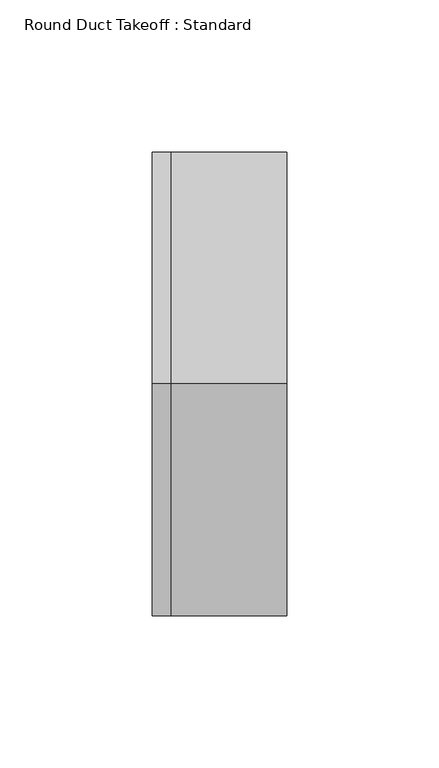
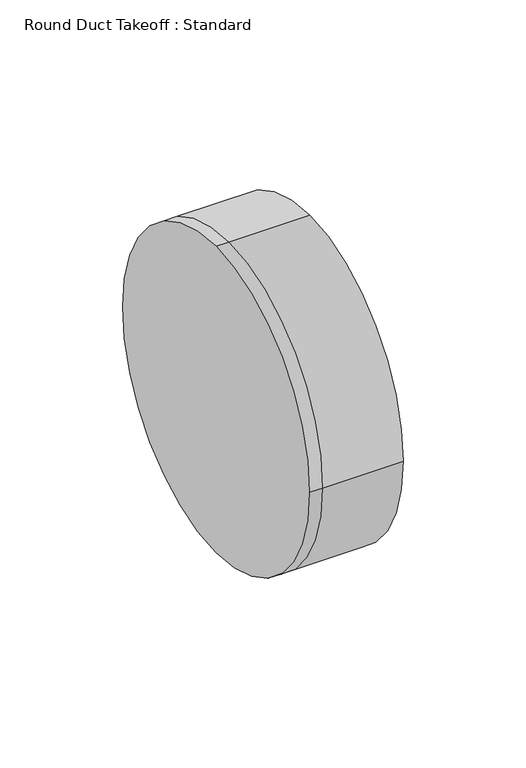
"""IFC4 building model written with IfcOpenShell, lengths in millimetres: duct fitting geometry, Round Duct Takeoff : Standard."""

from ifc_helpers import new_model, si_unit, frame, origin, place, context, project, spatial, circle_curve, source, transform, mapped, element, save
from ifc_brep_helpers import plane_surface, cylinder_surface, advanced_brep


def round_duct_takeoff_standard_3fff5fc7(model_context):
    return source(origin(), model_context, "Body", "AdvancedBrep", [
        advanced_brep(
        [(-6.096, 0.0, 76.2), (-6.096, 76.2, 0.0), (-6.096, 0.0, -76.2), (-6.096, -76.2, 0.0), (0.0, -76.2, 0.0), (0.0, 0.0, 76.2), (0.0, 0.0, -76.2), (0.0, 76.2, 0.0), (38.1, 0.0, 76.2), (38.1, -76.2, 0.0), (38.1, 0.0, -76.2), (38.1, 76.2, 0.0)],
        [
            (0, 1, circle_curve(frame((-6.096, 0.0, 0.0), z_axis=(-1.0, 0.0, 0.0), x_axis=(0.0, -1.0, 0.0)), 76.2)),
            (1, 2, circle_curve(frame((-6.096, 0.0, 0.0), z_axis=(-1.0, 0.0, 0.0), x_axis=(0.0, -1.0, 0.0)), 76.2)),
            (2, 3, circle_curve(frame((-6.096, 0.0, 0.0), z_axis=(-1.0, 0.0, 0.0), x_axis=(0.0, -1.0, 0.0)), 76.2)),
            (3, 0, circle_curve(frame((-6.096, 0.0, 0.0), z_axis=(-1.0, 0.0, 0.0), x_axis=(0.0, -1.0, 0.0)), 76.2)),
            (3, 4),
            (4, 5, circle_curve(frame((0.0, 0.0, 0.0), z_axis=(-1.0, 0.0, 0.0), x_axis=(0.0, -1.0, 0.0)), 76.2)),
            (5, 0),
            (2, 6),
            (6, 4, circle_curve(frame((0.0, 0.0, 0.0), z_axis=(-1.0, 0.0, 0.0), x_axis=(0.0, -1.0, 0.0)), 76.2)),
            (1, 7),
            (7, 6, circle_curve(frame((0.0, 0.0, 0.0), z_axis=(-1.0, 0.0, 0.0), x_axis=(0.0, -1.0, 0.0)), 76.2)),
            (5, 7, circle_curve(frame((0.0, 0.0, 0.0), z_axis=(-1.0, 0.0, 0.0), x_axis=(0.0, -1.0, 0.0)), 76.2)),
            (8, 9, circle_curve(frame((38.1, 0.0, 0.0), z_axis=(1.0, 0.0, 0.0), x_axis=(0.0, -1.0, 0.0)), 76.2)),
            (9, 10, circle_curve(frame((38.1, 0.0, 0.0), z_axis=(1.0, 0.0, 0.0), x_axis=(0.0, -1.0, 0.0)), 76.2)),
            (10, 11, circle_curve(frame((38.1, 0.0, 0.0), z_axis=(1.0, 0.0, 0.0), x_axis=(0.0, -1.0, 0.0)), 76.2)),
            (11, 8, circle_curve(frame((38.1, 0.0, 0.0), z_axis=(1.0, 0.0, 0.0), x_axis=(0.0, -1.0, 0.0)), 76.2)),
            (8, 5),
            (4, 9),
            (6, 10),
            (7, 11),
        ],
        [
            plane_surface(frame((-6.096, 0.0, 0.0), z_axis=(-1.0, 0.0, 0.0), x_axis=(0.0, 0.0, 1.0))),
            cylinder_surface(frame((-6.096, 0.0, 0.0), z_axis=(-1.0, 0.0, 0.0), x_axis=(0.0, -1.0, 0.0)), 76.2),
            plane_surface(frame((38.1, 0.0, 0.0), z_axis=(1.0, 0.0, 0.0), x_axis=(0.0, 0.0, 1.0))),
            cylinder_surface(frame((0.0, 0.0, 0.0), z_axis=(-1.0, 0.0, 0.0), x_axis=(0.0, -1.0, 0.0)), 76.2),
        ],
        [
            (0, [[1, 2, 3, 4]]),
            (1, [[5, 6, 7, -4]]),
            (1, [[8, 9, -5, -3]]),
            (1, [[10, 11, -8, -2]]),
            (1, [[-7, 12, -10, -1]]),
            (2, [[13, 14, 15, 16]]),
            (3, [[17, -6, 18, -13]]),
            (3, [[-18, -9, 19, -14]]),
            (3, [[-19, -11, 20, -15]]),
            (3, [[-20, -12, -17, -16]]),
        ],
    ),
        advanced_brep(
        [(38.1, 0.0, 76.2), (38.1, -76.2, 0.0), (38.1, 0.0, -76.2), (38.1, 76.2, 0.0), (0.0, 0.0, 76.2), (0.0, -76.2, 0.0), (0.0, 0.0, -76.2), (0.0, 76.2, 0.0), (-6.096, 0.0, 76.2), (-6.096, 76.2, 0.0), (-6.096, 0.0, -76.2), (-6.096, -76.2, 0.0)],
        [
            (0, 1, circle_curve(frame((38.1, 0.0, 0.0), z_axis=(1.0, 0.0, 0.0), x_axis=(0.0, -1.0, 0.0)), 76.2)),
            (1, 2, circle_curve(frame((38.1, 0.0, 0.0), z_axis=(1.0, 0.0, 0.0), x_axis=(0.0, -1.0, 0.0)), 76.2)),
            (2, 3, circle_curve(frame((38.1, 0.0, 0.0), z_axis=(1.0, 0.0, 0.0), x_axis=(0.0, -1.0, 0.0)), 76.2)),
            (3, 0, circle_curve(frame((38.1, 0.0, 0.0), z_axis=(1.0, 0.0, 0.0), x_axis=(0.0, -1.0, 0.0)), 76.2)),
            (0, 4),
            (4, 5, circle_curve(frame((0.0, 0.0, 0.0), z_axis=(1.0, 0.0, 0.0), x_axis=(0.0, -1.0, 0.0)), 76.2)),
            (5, 1),
            (5, 6, circle_curve(frame((0.0, 0.0, 0.0), z_axis=(1.0, 0.0, 0.0), x_axis=(0.0, -1.0, 0.0)), 76.2)),
            (6, 2),
            (6, 7, circle_curve(frame((0.0, 0.0, 0.0), z_axis=(1.0, 0.0, 0.0), x_axis=(0.0, -1.0, 0.0)), 76.2)),
            (7, 3),
            (7, 4, circle_curve(frame((0.0, 0.0, 0.0), z_axis=(1.0, 0.0, 0.0), x_axis=(0.0, -1.0, 0.0)), 76.2)),
            (8, 9, circle_curve(frame((-6.096, 0.0, 0.0), z_axis=(-1.0, 0.0, 0.0), x_axis=(0.0, -1.0, 0.0)), 76.2)),
            (9, 10, circle_curve(frame((-6.096, 0.0, 0.0), z_axis=(-1.0, 0.0, 0.0), x_axis=(0.0, -1.0, 0.0)), 76.2)),
            (10, 11, circle_curve(frame((-6.096, 0.0, 0.0), z_axis=(-1.0, 0.0, 0.0), x_axis=(0.0, -1.0, 0.0)), 76.2)),
            (11, 8, circle_curve(frame((-6.096, 0.0, 0.0), z_axis=(-1.0, 0.0, 0.0), x_axis=(0.0, -1.0, 0.0)), 76.2)),
            (11, 5),
            (4, 8),
            (10, 6),
            (9, 7),
        ],
        [
            plane_surface(frame((38.1, 0.0, 0.0), z_axis=(1.0, 0.0, 0.0), x_axis=(0.0, 0.0, 1.0))),
            cylinder_surface(frame((0.0, 0.0, 0.0), z_axis=(-1.0, 0.0, 0.0), x_axis=(0.0, -1.0, 0.0)), 76.2),
            plane_surface(frame((-6.096, 0.0, 0.0), z_axis=(-1.0, 0.0, 0.0), x_axis=(0.0, 0.0, 1.0))),
            cylinder_surface(frame((-6.096, 0.0, 0.0), z_axis=(-1.0, 0.0, 0.0), x_axis=(0.0, -1.0, 0.0)), 76.2),
        ],
        [
            (0, [[1, 2, 3, 4]]),
            (1, [[5, 6, 7, -1]]),
            (1, [[-7, 8, 9, -2]]),
            (1, [[-9, 10, 11, -3]]),
            (1, [[-11, 12, -5, -4]]),
            (2, [[13, 14, 15, 16]]),
            (3, [[17, -6, 18, -16]]),
            (3, [[19, -8, -17, -15]]),
            (3, [[20, -10, -19, -14]]),
            (3, [[-18, -12, -20, -13]]),
        ],
    ),
        advanced_brep(
        [(-6.096, 0.0, 76.2), (-6.096, 76.2, 0.0), (-6.096, 0.0, -76.2), (-6.096, -76.2, 0.0), (0.0, -76.2, 0.0), (0.0, 0.0, 76.2), (0.0, 0.0, -76.2), (0.0, 76.2, 0.0), (38.1, 0.0, 76.2), (38.1, -76.2, 0.0), (38.1, 0.0, -76.2), (38.1, 76.2, 0.0)],
        [
            (0, 1, circle_curve(frame((-6.096, 0.0, 0.0), z_axis=(-1.0, 0.0, 0.0), x_axis=(0.0, -1.0, 0.0)), 76.2)),
            (1, 2, circle_curve(frame((-6.096, 0.0, 0.0), z_axis=(-1.0, 0.0, 0.0), x_axis=(0.0, -1.0, 0.0)), 76.2)),
            (2, 3, circle_curve(frame((-6.096, 0.0, 0.0), z_axis=(-1.0, 0.0, 0.0), x_axis=(0.0, -1.0, 0.0)), 76.2)),
            (3, 0, circle_curve(frame((-6.096, 0.0, 0.0), z_axis=(-1.0, 0.0, 0.0), x_axis=(0.0, -1.0, 0.0)), 76.2)),
            (3, 4),
            (4, 5, circle_curve(frame((0.0, 0.0, 0.0), z_axis=(-1.0, 0.0, 0.0), x_axis=(0.0, -1.0, 0.0)), 76.2)),
            (5, 0),
            (2, 6),
            (6, 4, circle_curve(frame((0.0, 0.0, 0.0), z_axis=(-1.0, 0.0, 0.0), x_axis=(0.0, -1.0, 0.0)), 76.2)),
            (1, 7),
            (7, 6, circle_curve(frame((0.0, 0.0, 0.0), z_axis=(-1.0, 0.0, 0.0), x_axis=(0.0, -1.0, 0.0)), 76.2)),
            (5, 7, circle_curve(frame((0.0, 0.0, 0.0), z_axis=(-1.0, 0.0, 0.0), x_axis=(0.0, -1.0, 0.0)), 76.2)),
            (8, 9, circle_curve(frame((38.1, 0.0, 0.0), z_axis=(1.0, 0.0, 0.0), x_axis=(0.0, -1.0, 0.0)), 76.2)),
            (9, 10, circle_curve(frame((38.1, 0.0, 0.0), z_axis=(1.0, 0.0, 0.0), x_axis=(0.0, -1.0, 0.0)), 76.2)),
            (10, 11, circle_curve(frame((38.1, 0.0, 0.0), z_axis=(1.0, 0.0, 0.0), x_axis=(0.0, -1.0, 0.0)), 76.2)),
            (11, 8, circle_curve(frame((38.1, 0.0, 0.0), z_axis=(1.0, 0.0, 0.0), x_axis=(0.0, -1.0, 0.0)), 76.2)),
            (8, 5),
            (4, 9),
            (6, 10),
            (7, 11),
        ],
        [
            plane_surface(frame((-6.096, 0.0, 0.0), z_axis=(-1.0, 0.0, 0.0), x_axis=(0.0, 0.0, 1.0))),
            cylinder_surface(frame((-6.096, 0.0, 0.0), z_axis=(-1.0, 0.0, 0.0), x_axis=(0.0, -1.0, 0.0)), 76.2),
            plane_surface(frame((38.1, 0.0, 0.0), z_axis=(1.0, 0.0, 0.0), x_axis=(0.0, 0.0, 1.0))),
            cylinder_surface(frame((0.0, 0.0, 0.0), z_axis=(-1.0, 0.0, 0.0), x_axis=(0.0, -1.0, 0.0)), 76.2),
        ],
        [
            (0, [[1, 2, 3, 4]]),
            (1, [[5, 6, 7, -4]]),
            (1, [[8, 9, -5, -3]]),
            (1, [[10, 11, -8, -2]]),
            (1, [[-7, 12, -10, -1]]),
            (2, [[13, 14, 15, 16]]),
            (3, [[17, -6, 18, -13]]),
            (3, [[-18, -9, 19, -14]]),
            (3, [[-19, -11, 20, -15]]),
            (3, [[-20, -12, -17, -16]]),
        ],
    ),
    ])


if __name__ == "__main__":
    model = new_model("IFC4")
    model_context = context("Model", 3, world=origin())
    ifc_project = project(units=[si_unit("LENGTHUNIT", "METRE", prefix="MILLI")], contexts=[model_context])
    site = spatial("IfcSite", under=ifc_project)
    building = spatial("IfcBuilding", under=site)
    placement = place(None, origin())
    round_duct_takeoff_standard_shape = round_duct_takeoff_standard_3fff5fc7(model_context)
    element("IfcDuctFitting", 1, ObjectType="Round Duct Takeoff : Standard", at=placement, inside=building, context=model_context, shape_type="MappedRepresentation", body=[
        mapped(round_duct_takeoff_standard_shape, transform((0.0, 0.0, 0.0), x_axis=(1.0, 0.0, 0.0), y_axis=(0.0, 1.0, 0.0), z_axis=(0.0, 0.0, 1.0))),
    ])
    save(model, "model.ifc")
